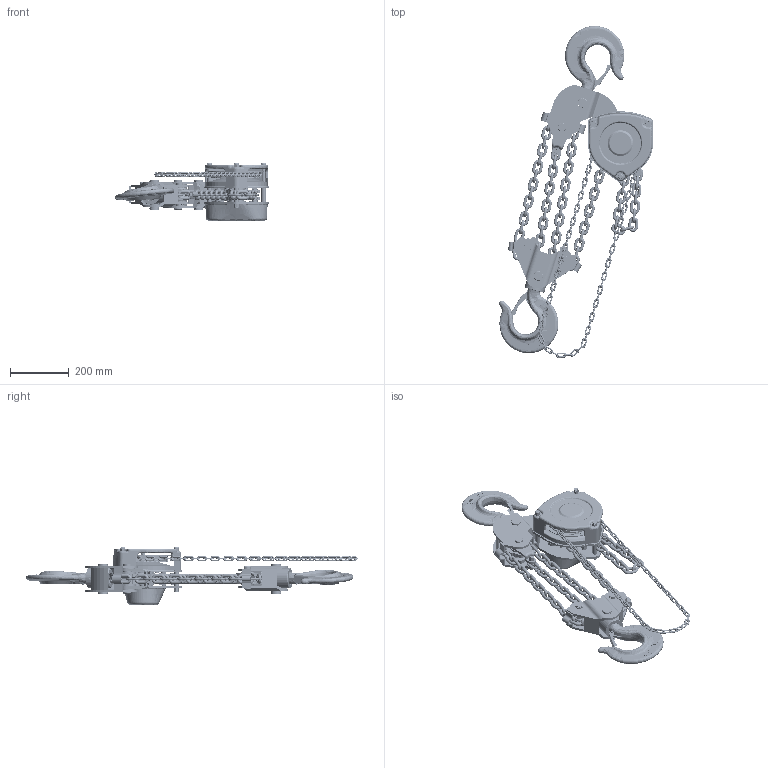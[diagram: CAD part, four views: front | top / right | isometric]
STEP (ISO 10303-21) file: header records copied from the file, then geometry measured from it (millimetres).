
FILE_DESCRIPTION (( 'STEP AP214' ), '1' );
FILE_NAME ('10t軞蚾饜.STEP', '2023-11-08T09:22:53', ( '' ), ( '' ), 'SwSTEP 2.0', 'SolidWorks 2018', '' );
FILE_SCHEMA (( 'AUTOMOTIVE_DESIGN' ));
Length unit declared in the file: millimetre
Products named in the file (1): 10t軞蚾饜
Bounding box: 522.53 x 1125.86 x 194.3 mm (x, y, z)
Volume: 5714788.3 mm3; surface area: 1987537.4 mm2
Topology: 275 solids, 275 shells, 7179 faces, 18043 edges, 11128 vertices
Faces by surface type: cylinder 2809, plane 1391, torus 1310, bspline 1213, cone 388, sphere 68
Entity records: 403127 total; most frequent: CARTESIAN_POINT 156275, ORIENTED_EDGE 35794, DIRECTION 33882, EDGE_CURVE 17897, AXIS2_PLACEMENT_3D 14204, VERTEX_POINT 11046, CIRCLE 8237, EDGE_LOOP 7563
